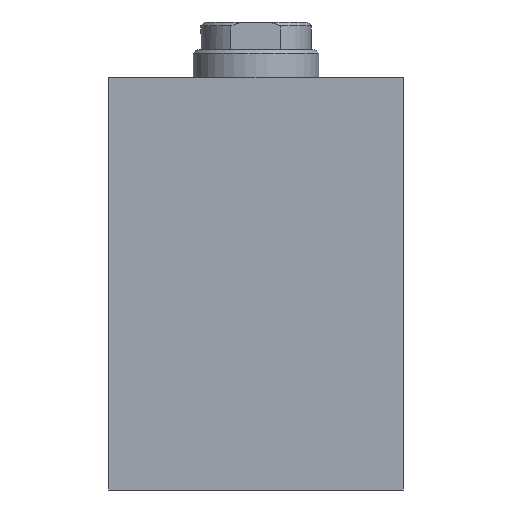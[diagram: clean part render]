
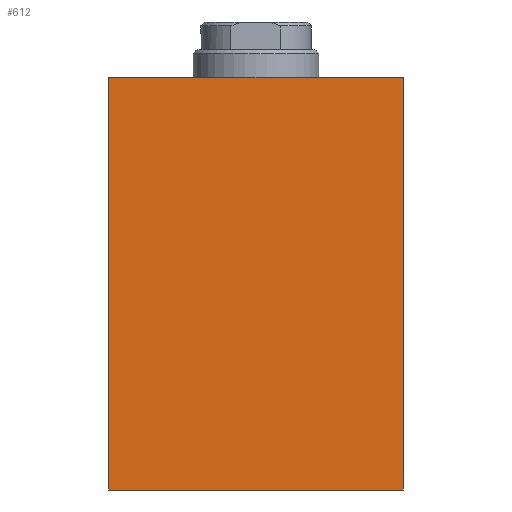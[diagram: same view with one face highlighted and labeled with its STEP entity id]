
A CAD part, front view. The second image highlights one B-rep face of the part: STEP entity #612.
In plain terms, the highlighted planar face has unit normal (0, -1, 0).
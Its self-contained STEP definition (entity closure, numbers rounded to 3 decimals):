
#135 = CARTESIAN_POINT ( 'NONE',  ( 75., 0., 105. ) ) ;
#225 = CARTESIAN_POINT ( 'NONE',  ( 0., 0., 105. ) ) ;
#612 = ADVANCED_FACE ( 'NONE', ( #18799 ), #17673, .F. ) ;
#1233 = ORIENTED_EDGE ( 'NONE', *, *, #4817, .F. ) ;
#1957 = EDGE_CURVE ( 'NONE', #15965, #19832, #12253, .T. ) ;
#2332 = EDGE_CURVE ( 'NONE', #18313, #2835, #8406, .T. ) ;
#2359 = DIRECTION ( 'NONE',  ( 1., 0., 0. ) ) ;
#2835 = VERTEX_POINT ( 'NONE', #13928 ) ;
#3239 = DIRECTION ( 'NONE',  ( 0., 0., -1. ) ) ;
#4424 = DIRECTION ( 'NONE',  ( 0., 1., 0. ) ) ;
#4817 = EDGE_CURVE ( 'NONE', #2835, #19832, #12313, .T. ) ;
#5809 = VECTOR ( 'NONE', #3239, 1000. ) ;
#6925 = DIRECTION ( 'NONE',  ( 0., 0., -1. ) ) ;
#7389 = VECTOR ( 'NONE', #2359, 1000. ) ;
#7708 = DIRECTION ( 'NONE',  ( 0., 0., 1. ) ) ;
#7878 = EDGE_LOOP ( 'NONE', ( #16071, #1233, #12358, #15470 ) ) ;
#7970 = VECTOR ( 'NONE', #6925, 1000. ) ;
#8406 = LINE ( 'NONE', #225, #19904 ) ;
#11237 = CARTESIAN_POINT ( 'NONE',  ( 75., 0., 0. ) ) ;
#12253 = LINE ( 'NONE', #17248, #7389 ) ;
#12313 = LINE ( 'NONE', #135, #7970 ) ;
#12358 = ORIENTED_EDGE ( 'NONE', *, *, #2332, .F. ) ;
#13106 = CARTESIAN_POINT ( 'NONE',  ( 0., 0., 105. ) ) ;
#13391 = DIRECTION ( 'NONE',  ( 1., 0., 0. ) ) ;
#13748 = LINE ( 'NONE', #13106, #5809 ) ;
#13928 = CARTESIAN_POINT ( 'NONE',  ( 75., 0., 105. ) ) ;
#14209 = CARTESIAN_POINT ( 'NONE',  ( 0., 0., 105. ) ) ;
#15470 = ORIENTED_EDGE ( 'NONE', *, *, #20560, .T. ) ;
#15965 = VERTEX_POINT ( 'NONE', #19277 ) ;
#16071 = ORIENTED_EDGE ( 'NONE', *, *, #1957, .T. ) ;
#16876 = CARTESIAN_POINT ( 'NONE',  ( 0., 0., 105. ) ) ;
#17248 = CARTESIAN_POINT ( 'NONE',  ( 0., 0., 0. ) ) ;
#17673 = PLANE ( 'NONE',  #20196 ) ;
#18313 = VERTEX_POINT ( 'NONE', #16876 ) ;
#18799 = FACE_OUTER_BOUND ( 'NONE', #7878, .T. ) ;
#19277 = CARTESIAN_POINT ( 'NONE',  ( 0., 0., 0. ) ) ;
#19832 = VERTEX_POINT ( 'NONE', #11237 ) ;
#19904 = VECTOR ( 'NONE', #13391, 1000. ) ;
#20196 = AXIS2_PLACEMENT_3D ( 'NONE', #14209, #4424, #7708 ) ;
#20560 = EDGE_CURVE ( 'NONE', #18313, #15965, #13748, .T. ) ;
